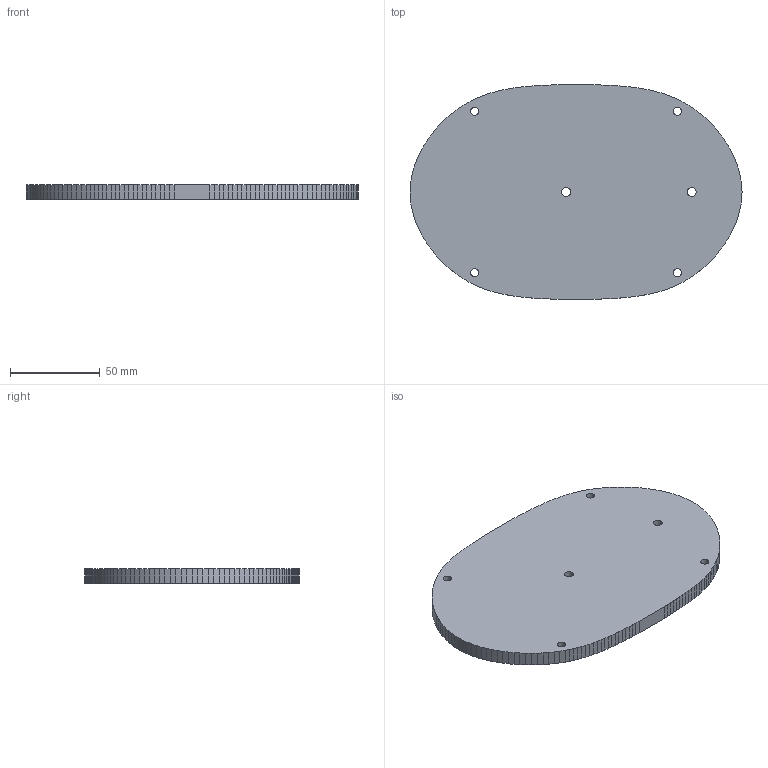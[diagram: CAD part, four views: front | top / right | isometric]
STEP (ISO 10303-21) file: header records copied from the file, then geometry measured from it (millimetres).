
FILE_DESCRIPTION(('STEP AP214'),'1');
FILE_NAME('tmp0.step','2026-08-23T18:41:12',(' '),(' '),'Spatial InterOp 3D',' ',' ');
FILE_SCHEMA(('AUTOMOTIVE_DESIGN { 1 0 10303 214 1 1 1 1 }'));
Length unit declared in the file: millimetre
Products named in the file (1): 1
Bounding box: 184.99 x 119.6 x 8 mm (x, y, z)
Volume: 145318.4 mm3; surface area: 40992.3 mm2
Topology: 1 solids, 1 shells, 176 faces, 522 edges, 348 vertices
Faces by surface type: plane 164, cylinder 12
Entity records: 5839 total; most frequent: CARTESIAN_POINT 1047, ORIENTED_EDGE 1044, DIRECTION 900, EDGE_CURVE 522, LINE 498, VECTOR 498, VERTEX_POINT 348, AXIS2_PLACEMENT_3D 201
